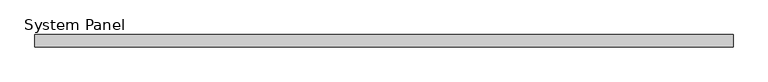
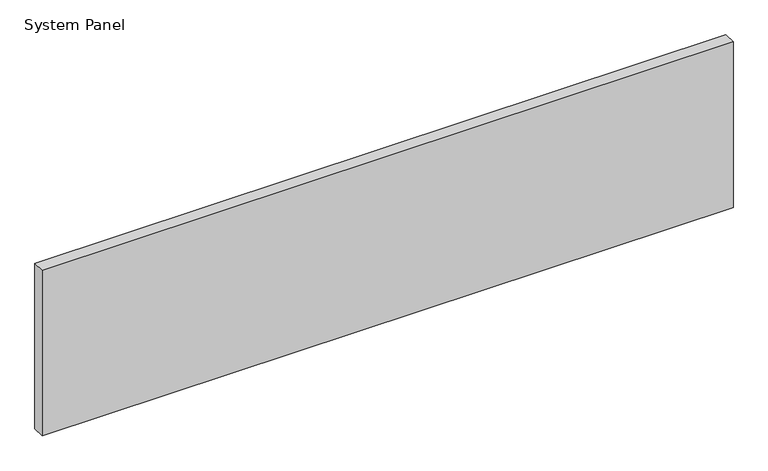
"""IFC4 building model written with IfcOpenShell, lengths in millimetres: plate geometry, System Panel : Glazed - ACMP (AL-1)."""

from ifc_helpers import new_model, si_unit, origin, origin_with_axes, place, context, project, spatial, polyline, outline, extrude, source, transform, mapped, element, save


def system_panel_26bb9b94(model_context):
    return source(origin(), model_context, "Body", "SweptSolid", [
        extrude(outline(polyline([(714.375, 0.0), (-714.375, 0.0), (-714.375, 25.4), (714.375, 25.4), (714.375, 0.0)])), origin_with_axes(), (0.0, 0.0, 1.0), 361.95),
    ])


if __name__ == "__main__":
    model = new_model("IFC4")
    model_context = context("Model", 3, world=origin())
    ifc_project = project(units=[si_unit("LENGTHUNIT", "METRE", prefix="MILLI")], contexts=[model_context])
    site = spatial("IfcSite", under=ifc_project)
    building = spatial("IfcBuilding", under=site)
    placement = place(None, origin())
    system_panel_shape = system_panel_26bb9b94(model_context)
    element("IfcPlate", 1, ObjectType="System Panel : Glazed - ACMP (AL-1)", at=placement, inside=building, context=model_context, shape_type="MappedRepresentation", body=[
        mapped(system_panel_shape, transform((0.0, 0.0, 0.0), x_axis=(1.0, 0.0, 0.0), y_axis=(0.0, 1.0, 0.0), z_axis=(0.0, 0.0, 1.0))),
    ])
    save(model, "model.ifc")
